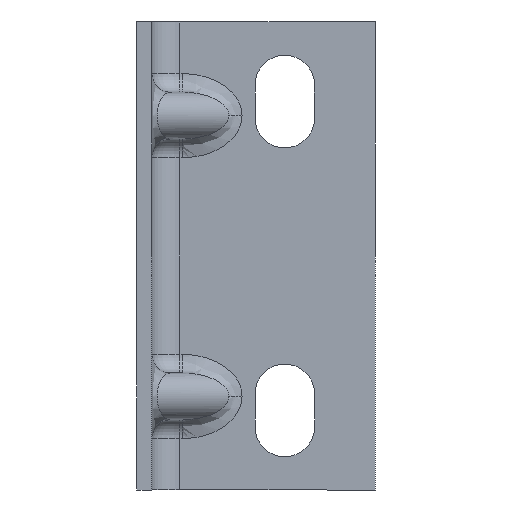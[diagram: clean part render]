
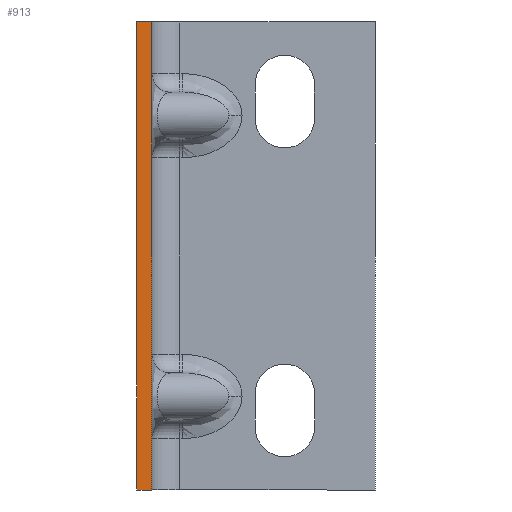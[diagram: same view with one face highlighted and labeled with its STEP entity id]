
A CAD part, left-side view. The second image highlights one B-rep face of the part: STEP entity #913.
In plain terms, the highlighted planar face has unit normal (-1, 0, 0).
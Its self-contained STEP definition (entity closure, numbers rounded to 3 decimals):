
#203 = VECTOR ( 'NONE', #2549, 1000. ) ;
#268 = VECTOR ( 'NONE', #3207, 1000. ) ;
#276 = LINE ( 'NONE', #1346, #203 ) ;
#582 = AXIS2_PLACEMENT_3D ( 'NONE', #2545, #645, #3698 ) ;
#635 = VERTEX_POINT ( 'NONE', #3722 ) ;
#645 = DIRECTION ( 'NONE',  ( -1., 0., 0. ) ) ;
#913 = ADVANCED_FACE ( 'NONE', ( #961 ), #1013, .T. ) ;
#961 = FACE_OUTER_BOUND ( 'NONE', #1208, .T. ) ;
#1013 = PLANE ( 'NONE',  #582 ) ;
#1076 = VECTOR ( 'NONE', #3288, 1000. ) ;
#1114 = ORIENTED_EDGE ( 'NONE', *, *, #1875, .T. ) ;
#1208 = EDGE_LOOP ( 'NONE', ( #1756, #1937, #1114, #1389 ) ) ;
#1346 = CARTESIAN_POINT ( 'NONE',  ( -35., -1.6, -25. ) ) ;
#1389 = ORIENTED_EDGE ( 'NONE', *, *, #2137, .T. ) ;
#1641 = CARTESIAN_POINT ( 'NONE',  ( -35., -1.6, 25. ) ) ;
#1694 = LINE ( 'NONE', #4001, #268 ) ;
#1756 = ORIENTED_EDGE ( 'NONE', *, *, #2592, .F. ) ;
#1812 = VERTEX_POINT ( 'NONE', #2139 ) ;
#1875 = EDGE_CURVE ( 'NONE', #1812, #2949, #3715, .T. ) ;
#1937 = ORIENTED_EDGE ( 'NONE', *, *, #2500, .F. ) ;
#2137 = EDGE_CURVE ( 'NONE', #2949, #635, #1694, .T. ) ;
#2139 = CARTESIAN_POINT ( 'NONE',  ( -35., -1.6, -25. ) ) ;
#2500 = EDGE_CURVE ( 'NONE', #1812, #2597, #276, .T. ) ;
#2516 = LINE ( 'NONE', #4369, #1076 ) ;
#2545 = CARTESIAN_POINT ( 'NONE',  ( -35., -1.6, 25. ) ) ;
#2549 = DIRECTION ( 'NONE',  ( 0., 1., 0. ) ) ;
#2592 = EDGE_CURVE ( 'NONE', #2597, #635, #2516, .T. ) ;
#2597 = VERTEX_POINT ( 'NONE', #3618 ) ;
#2949 = VERTEX_POINT ( 'NONE', #1641 ) ;
#3207 = DIRECTION ( 'NONE',  ( 0., 1., 0. ) ) ;
#3288 = DIRECTION ( 'NONE',  ( 0., 0., 1. ) ) ;
#3618 = CARTESIAN_POINT ( 'NONE',  ( -35., 0., -25. ) ) ;
#3698 = DIRECTION ( 'NONE',  ( 0., 0., 1. ) ) ;
#3715 = LINE ( 'NONE', #4467, #4040 ) ;
#3722 = CARTESIAN_POINT ( 'NONE',  ( -35., 0., 25. ) ) ;
#4001 = CARTESIAN_POINT ( 'NONE',  ( -35., -1.6, 25. ) ) ;
#4040 = VECTOR ( 'NONE', #4879, 1000. ) ;
#4369 = CARTESIAN_POINT ( 'NONE',  ( -35., 0., 25. ) ) ;
#4467 = CARTESIAN_POINT ( 'NONE',  ( -35., -1.6, 25. ) ) ;
#4879 = DIRECTION ( 'NONE',  ( 0., 0., 1. ) ) ;
